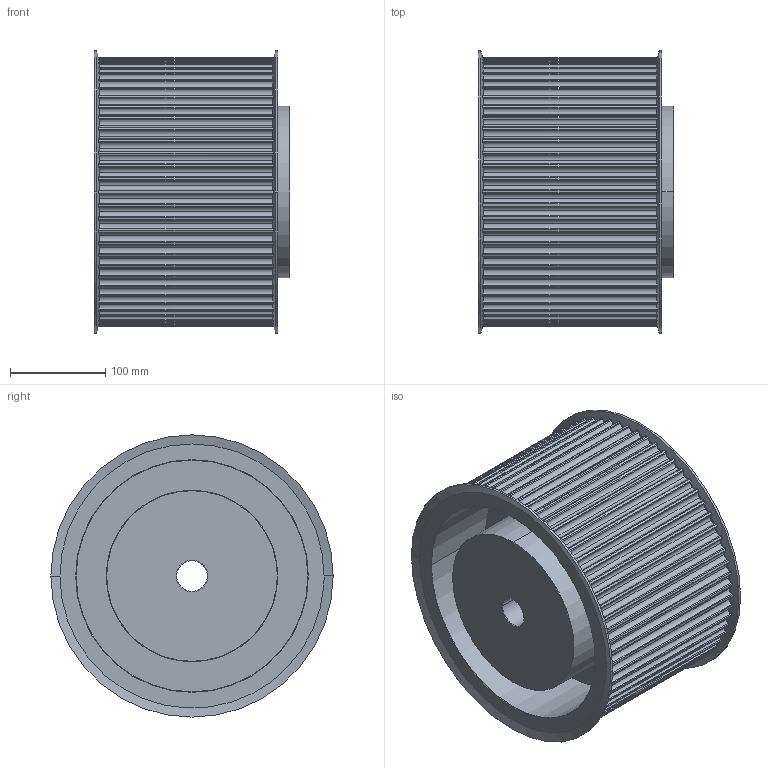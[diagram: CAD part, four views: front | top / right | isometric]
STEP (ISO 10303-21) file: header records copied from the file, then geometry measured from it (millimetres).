
FILE_DESCRIPTION(('STEP AP203'),'1');
FILE_NAME('64_-_14_m_170.stp','2019-10-01T11:25:43',('TraceParts'),('TraceParts S.A.'),'Spatial InterOp 3D',' ',' ');
FILE_SCHEMA(('CONFIG_CONTROL_DESIGN'));
Length unit declared in the file: millimetre
Products named in the file (1): 1
Bounding box: 204.55 x 296 x 296 mm (x, y, z)
Volume: 8157409 mm3; surface area: 615982 mm2
Topology: 1 solids, 1 shells, 488 faces, 1434 edges, 952 vertices
Faces by surface type: cylinder 334, plane 134, cone 20
Entity records: 20062 total; most frequent: CARTESIAN_POINT 7483, ORIENTED_EDGE 2868, DIRECTION 2468, EDGE_CURVE 1434, AXIS2_PLACEMENT_3D 1057, VERTEX_POINT 952, CIRCLE 568, B_SPLINE_CURVE_WITH_KNOTS 512
